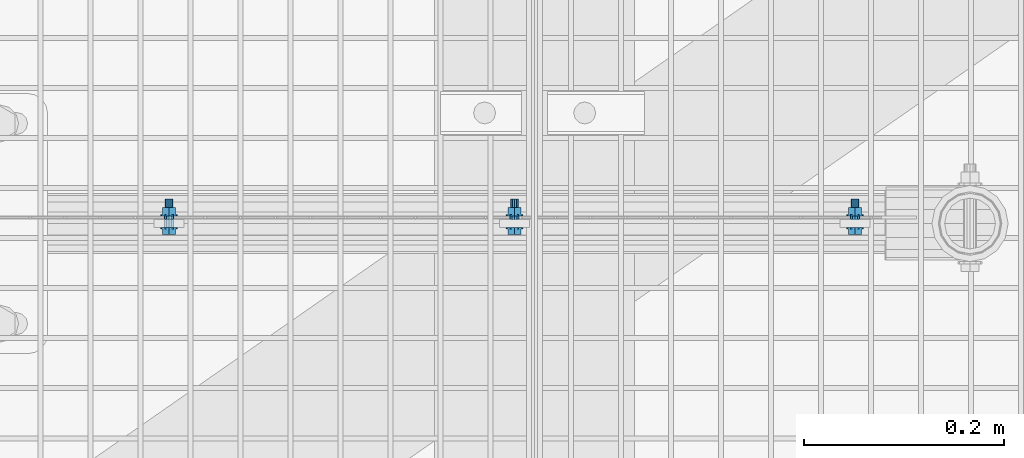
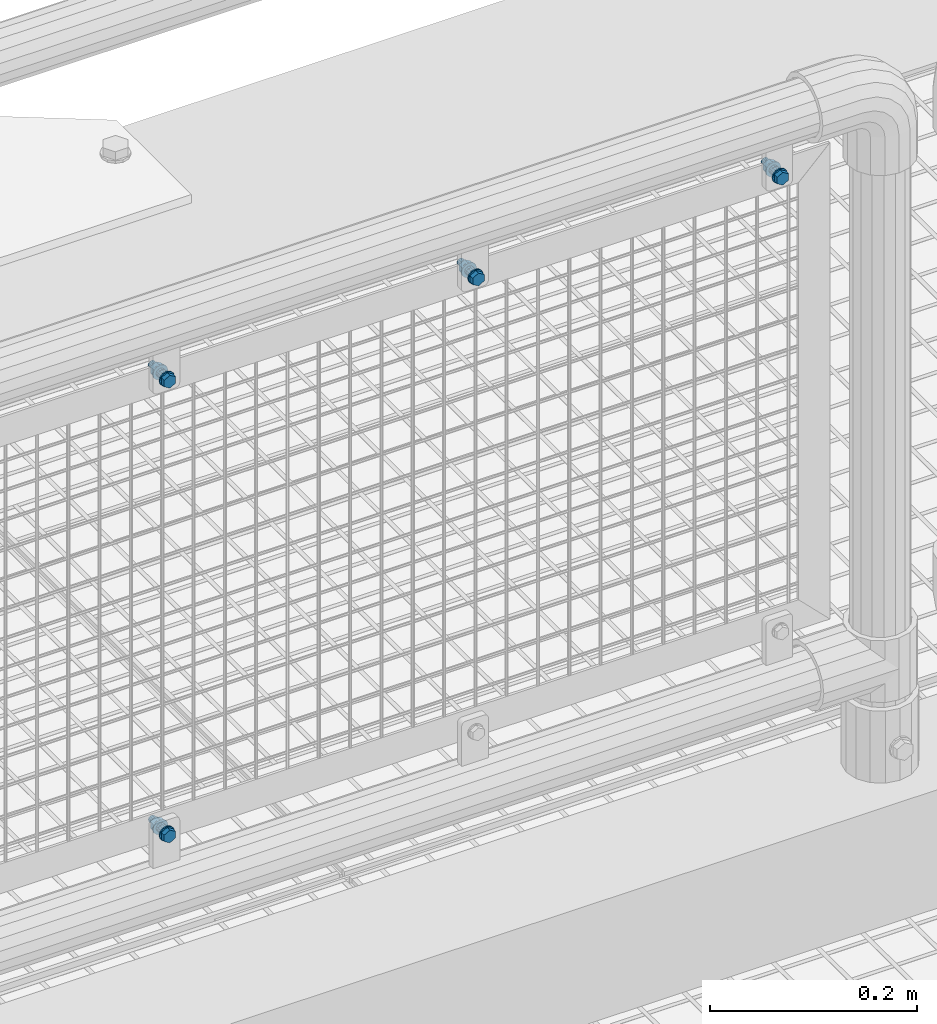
# One storey, part 100 of 1530: 4 mechanical fasteners.
"""IFC2X3 building model written with IfcOpenShell, lengths in millimetres."""

from ifc_helpers import new_model, si_unit, frame, origin_with_axes, place, context, subcontext, project, spatial, faceted_brep, source, transform, mapped, material, type_object, element, save


model = new_model("IFC2X3")

# Units and contexts
model_context = context("Model", 3, precision=1e-05, world=origin_with_axes())
body_context = subcontext(model_context, "Body", "Model", "MODEL_VIEW")
ifc_project = project(units=[si_unit("LENGTHUNIT", "METRE", prefix="MILLI"), si_unit("AREAUNIT", "SQUARE_METRE"), si_unit("VOLUMEUNIT", "CUBIC_METRE"), si_unit("MASSUNIT", "GRAM", prefix="KILO"), si_unit("TIMEUNIT", "SECOND"), si_unit("PLANEANGLEUNIT", "RADIAN"), si_unit("SOLIDANGLEUNIT", "STERADIAN"), si_unit("THERMODYNAMICTEMPERATUREUNIT", "DEGREE_CELSIUS"), si_unit("LUMINOUSINTENSITYUNIT", "LUMEN")], contexts=[model_context])

# Site, building, storey
site_placement = place(None, origin_with_axes())
site = spatial("IfcSite", under=ifc_project, at=site_placement, Name="Brattvåg", CompositionType="ELEMENT")
building_placement = place(site_placement, origin_with_axes())
building = spatial("IfcBuilding", under=site, at=building_placement, Name="Undefined", CompositionType="ELEMENT")
storey_placement = place(building_placement, origin_with_axes())
storey = spatial("IfcBuildingStorey", under=building, at=storey_placement, Name="Undefined", CompositionType="ELEMENT", Elevation=0.0)

# Mechanical fasteners
ifc_material = material(Name="8")
mechanical_fastener_type = type_object("IfcMechanicalFastenerType", Name="Bolt assembly")
shared_shape_1 = source(origin_with_axes(), body_context, "Body", "Brep", [
    faceted_brep([(7.50555349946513, -6.90000021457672, 0.0), (3.75277674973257, -6.90000021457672, 6.5), (-3.75277674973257, -6.90000021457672, 6.5), (-7.50555349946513, -6.90000021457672, 9.19165206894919e-16), (-3.75277674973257, -6.90000021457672, -6.5), (3.75277674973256, -6.90000021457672, -6.5), (3.75277674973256, -1.60000002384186, -6.5), (-3.75277674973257, -1.60000002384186, -6.5), (-7.50555349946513, -1.60000002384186, 9.19165206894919e-16), (-3.75277674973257, -1.60000002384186, 6.5), (3.75277674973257, -1.60000002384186, 6.5), (7.50555349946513, -1.60000002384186, 0.0), (4.0, -1.60000002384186, 0.0), (3.46410161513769, -1.60000002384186, 2.00000000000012), (1.99999999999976, -1.60000002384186, 3.46410161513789), (-4.14534392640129e-13, -1.60000002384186, 4.0), (-2.00000000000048, -1.60000002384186, 3.46410161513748), (-3.4641016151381, -1.60000002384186, 1.9999999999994), (-4.0, -1.60000002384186, -8.29068785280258e-13), (-3.46410161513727, -1.60000002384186, -2.00000000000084), (-1.99999999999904, -1.60000002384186, -3.46410161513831), (1.23916228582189e-12, -1.60000002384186, -4.0), (2.00000000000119, -1.60000002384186, -3.46410161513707), (3.46410161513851, -1.60000002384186, -1.99999999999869), (3.46410161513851, 28.3999999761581, -1.99999999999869), (2.00000000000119, 28.3999999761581, -3.46410161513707), (1.23916228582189e-12, 28.3999999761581, -4.0), (-1.99999999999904, 28.3999999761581, -3.46410161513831), (-3.46410161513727, 28.3999999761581, -2.00000000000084), (-4.0, 28.3999999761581, -8.29068785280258e-13), (-3.4641016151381, 28.3999999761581, 1.9999999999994), (-2.00000000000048, 28.3999999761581, 3.46410161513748), (-4.14534392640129e-13, 28.3999999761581, 4.0), (1.99999999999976, 28.3999999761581, 3.46410161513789), (3.46410161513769, 28.3999999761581, 2.00000000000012), (4.0, 28.3999999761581, 0.0), (8.5, -1.60000002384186, 0.0), (7.36121593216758, -1.60000002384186, 4.25000000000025), (4.24999999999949, -1.60000002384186, 7.36121593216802), (-8.80885584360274e-13, -1.60000002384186, 8.5), (-4.25000000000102, -1.60000002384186, 7.36121593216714), (-7.36121593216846, -1.60000002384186, 4.24999999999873), (-8.5, -1.60000002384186, -1.76177116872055e-12), (-7.3612159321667, -1.60000002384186, -4.25000000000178), (-4.24999999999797, -1.60000002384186, -7.3612159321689), (2.63321985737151e-12, -1.60000002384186, -8.5), (4.25000000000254, -1.60000002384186, -7.36121593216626), (7.36121593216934, -1.60000002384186, -4.24999999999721), (7.36121593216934, 0.0, -4.24999999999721), (4.25000000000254, 0.0, -7.36121593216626), (2.63321985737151e-12, 0.0, -8.5), (-4.24999999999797, 0.0, -7.3612159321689), (-7.3612159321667, 0.0, -4.25000000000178), (-8.5, 0.0, -1.76177116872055e-12), (-7.36121593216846, 0.0, 4.24999999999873), (-4.25000000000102, 0.0, 7.36121593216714), (-8.80885584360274e-13, 0.0, 8.5), (4.24999999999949, 0.0, 7.36121593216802), (7.36121593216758, 0.0, 4.25000000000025), (8.5, 0.0, 0.0), (8.5, 11.5015258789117, 0.0), (7.36121593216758, 11.5015258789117, 4.25000000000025), (4.24999999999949, 11.5015258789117, 7.36121593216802), (-8.80885584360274e-13, 11.5015258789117, 8.5), (-4.25000000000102, 11.5015258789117, 7.36121593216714), (-7.36121593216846, 11.5015258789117, 4.24999999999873), (-8.5, 11.5015258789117, -1.76177116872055e-12), (-7.3612159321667, 11.5015258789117, -4.25000000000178), (-4.24999999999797, 11.5015258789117, -7.3612159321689), (2.63321985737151e-12, 11.5015258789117, -8.5), (4.25000000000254, 11.5015258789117, -7.36121593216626), (7.36121593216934, 11.5015258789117, -4.24999999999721), (7.36121593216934, 13.1015259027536, -4.24999999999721), (4.25000000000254, 13.1015259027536, -7.36121593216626), (2.63321985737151e-12, 13.1015259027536, -8.5), (-4.24999999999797, 13.1015259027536, -7.3612159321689), (-7.3612159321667, 13.1015259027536, -4.25000000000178), (-8.5, 13.1015259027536, -1.76177116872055e-12), (-7.36121593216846, 13.1015259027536, 4.24999999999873), (-4.25000000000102, 13.1015259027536, 7.36121593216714), (-8.80885584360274e-13, 13.1015259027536, 8.5), (4.24999999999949, 13.1015259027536, 7.36121593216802), (7.36121593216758, 13.1015259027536, 4.25000000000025), (8.5, 13.1015259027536, 0.0), (7.50555349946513, 13.1015259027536, 0.0), (3.75277674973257, 13.1015259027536, 6.5), (-3.75277674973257, 13.1015259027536, 6.5), (-7.50555349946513, 13.1015259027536, 9.19165206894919e-16), (-3.75277674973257, 13.1015259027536, -6.5), (3.75277674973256, 13.1015259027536, -6.5), (3.75277674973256, 19.9015260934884, -6.5), (-3.75277674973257, 19.9015260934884, -6.5), (-7.50555349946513, 19.9015260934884, 9.19165206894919e-16), (-3.75277674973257, 19.9015260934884, 6.5), (3.75277674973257, 19.9015260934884, 6.5), (7.50555349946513, 19.9015260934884, 0.0)], [[[0, 1, 2, 3, 4, 5]], [[6, 7, 8, 9, 10, 11]], [[0, 11, 10, 1]], [[1, 10, 9, 2]], [[2, 9, 8, 3]], [[3, 8, 7, 4]], [[4, 7, 6, 5]], [[5, 6, 11, 0]], [[12, 13, 14, 15, 16, 17, 18, 19, 20, 21, 22, 23]], [[24, 25, 26, 27, 28, 29, 30, 31, 32, 33, 34, 35]], [[12, 35, 34, 13]], [[13, 34, 33, 14]], [[14, 33, 32, 15]], [[15, 32, 31, 16]], [[16, 31, 30, 17]], [[17, 30, 29, 18]], [[18, 29, 28, 19]], [[19, 28, 27, 20]], [[20, 27, 26, 21]], [[21, 26, 25, 22]], [[22, 25, 24, 23]], [[23, 24, 35, 12]], [[36, 37, 38, 39, 40, 41, 42, 43, 44, 45, 46, 47]], [[48, 49, 50, 51, 52, 53, 54, 55, 56, 57, 58, 59]], [[36, 59, 58, 37]], [[37, 58, 57, 38]], [[38, 57, 56, 39]], [[39, 56, 55, 40]], [[40, 55, 54, 41]], [[41, 54, 53, 42]], [[42, 53, 52, 43]], [[43, 52, 51, 44]], [[44, 51, 50, 45]], [[45, 50, 49, 46]], [[46, 49, 48, 47]], [[47, 48, 59, 36]], [[60, 61, 62, 63, 64, 65, 66, 67, 68, 69, 70, 71]], [[72, 73, 74, 75, 76, 77, 78, 79, 80, 81, 82, 83]], [[60, 83, 82, 61]], [[61, 82, 81, 62]], [[62, 81, 80, 63]], [[63, 80, 79, 64]], [[64, 79, 78, 65]], [[65, 78, 77, 66]], [[66, 77, 76, 67]], [[67, 76, 75, 68]], [[68, 75, 74, 69]], [[69, 74, 73, 70]], [[70, 73, 72, 71]], [[71, 72, 83, 60]], [[84, 85, 86, 87, 88, 89]], [[90, 91, 92, 93, 94, 95]], [[84, 95, 94, 85]], [[85, 94, 93, 86]], [[86, 93, 92, 87]], [[87, 92, 91, 88]], [[88, 91, 90, 89]], [[89, 90, 95, 84]]]),
    faceted_brep([(5.0, 0.1, 0.0), (4.33012701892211, 0.1, 2.50000000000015), (2.4999999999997, 0.1, 4.33012701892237), (-5.18167990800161e-13, 0.1, 5.0), (-2.5000000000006, 0.1, 4.33012701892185), (-4.33012701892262, 0.1, 2.49999999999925), (-5.0, 0.1, -1.03633598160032e-12), (-4.33012701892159, 0.1, -2.50000000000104), (-2.49999999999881, 0.1, -4.33012701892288), (1.54895285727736e-12, 0.1, -5.0), (2.50000000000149, 0.1, -4.33012701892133), (4.33012701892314, 0.1, -2.49999999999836), (4.33012701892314, 8.1, -2.49999999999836), (2.50000000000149, 8.1, -4.33012701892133), (1.54895285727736e-12, 8.1, -5.0), (-2.49999999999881, 8.1, -4.33012701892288), (-4.33012701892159, 8.1, -2.50000000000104), (-5.0, 8.1, -1.03633598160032e-12), (-4.33012701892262, 8.1, 2.49999999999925), (-2.5000000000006, 8.1, 4.33012701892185), (-5.18167990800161e-13, 8.1, 5.0), (2.4999999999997, 8.1, 4.33012701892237), (4.33012701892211, 8.1, 2.50000000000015), (5.0, 8.1, 0.0), (5.0, 8.40152587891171, 0.0), (4.33012701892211, 8.40152587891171, 2.50000000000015), (2.4999999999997, 8.40152587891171, 4.33012701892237), (-5.18167990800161e-13, 8.40152587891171, 5.0), (-2.5000000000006, 8.40152587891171, 4.33012701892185), (-4.33012701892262, 8.40152587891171, 2.49999999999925), (-5.0, 8.40152587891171, -1.03633598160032e-12), (-4.33012701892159, 8.40152587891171, -2.50000000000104), (-2.49999999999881, 8.40152587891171, -4.33012701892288), (1.54895285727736e-12, 8.40152587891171, -5.0), (2.50000000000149, 8.40152587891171, -4.33012701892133), (4.33012701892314, 8.40152587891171, -2.49999999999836), (4.33012701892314, 11.5015258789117, -2.49999999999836), (2.50000000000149, 11.5015258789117, -4.33012701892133), (1.54895285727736e-12, 11.5015258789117, -5.0), (-2.49999999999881, 11.5015258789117, -4.33012701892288), (-4.33012701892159, 11.5015258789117, -2.50000000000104), (-5.0, 11.5015258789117, -1.03633598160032e-12), (-4.33012701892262, 11.5015258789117, 2.49999999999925), (-2.5000000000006, 11.5015258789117, 4.33012701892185), (-5.18167990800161e-13, 11.5015258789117, 5.0), (2.4999999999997, 11.5015258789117, 4.33012701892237), (4.33012701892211, 11.5015258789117, 2.50000000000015), (5.0, 11.5015258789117, 0.0)], [[[0, 1, 2, 3, 4, 5, 6, 7, 8, 9, 10, 11]], [[12, 13, 14, 15, 16, 17, 18, 19, 20, 21, 22, 23]], [[0, 23, 22, 1]], [[1, 22, 21, 2]], [[2, 21, 20, 3]], [[3, 20, 19, 4]], [[4, 19, 18, 5]], [[5, 18, 17, 6]], [[6, 17, 16, 7]], [[7, 16, 15, 8]], [[8, 15, 14, 9]], [[9, 14, 13, 10]], [[10, 13, 12, 11]], [[11, 12, 23, 0]], [[24, 25, 26, 27, 28, 29, 30, 31, 32, 33, 34, 35]], [[36, 37, 38, 39, 40, 41, 42, 43, 44, 45, 46, 47]], [[24, 47, 46, 25]], [[25, 46, 45, 26]], [[26, 45, 44, 27]], [[27, 44, 43, 28]], [[28, 43, 42, 29]], [[29, 42, 41, 30]], [[30, 41, 40, 31]], [[31, 40, 39, 32]], [[32, 39, 38, 33]], [[33, 38, 37, 34]], [[34, 37, 36, 35]], [[35, 36, 47, 24]]]),
])
for number, where, z_axis, x_axis, name in (
    (1, (14220.8504180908, 7660.49950027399, 889.680069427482), (-1.0, 1.99999855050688e-09, 0.0), (0.0, 0.0, 1.0), "Bolt assembly"),
    (2, (14565.8516387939, 7660.49950027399, 889.680069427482), (-1.0, 1.99999855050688e-09, 0.0), (0.0, 0.0, 1.0), "Bolt assembly"),
):
    element("IfcMechanicalFastener", number, at=place(storey_placement, frame(where, z_axis=z_axis, x_axis=x_axis)), inside=storey, type_object=mechanical_fastener_type, material=ifc_material, Name=name, NominalDiameter=8.0, NominalLength=30.0, context=body_context, shape_type="MappedRepresentation", body=[
        mapped(shared_shape_1, transform((0.0, 0.0, 0.0))),
    ])
shared_shape_2 = source(origin_with_axes(), body_context, "Body", "Brep", [
    faceted_brep([(7.50555349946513, -6.90000021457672, 0.0), (3.75277674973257, -6.90000021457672, 6.5), (-3.75277674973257, -6.90000021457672, 6.5), (-7.50555349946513, -6.90000021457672, 9.19165206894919e-16), (-3.75277674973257, -6.90000021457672, -6.5), (3.75277674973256, -6.90000021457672, -6.5), (3.75277674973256, -1.60000002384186, -6.5), (-3.75277674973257, -1.60000002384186, -6.5), (-7.50555349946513, -1.60000002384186, 9.19165206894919e-16), (-3.75277674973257, -1.60000002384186, 6.5), (3.75277674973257, -1.60000002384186, 6.5), (7.50555349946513, -1.60000002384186, 0.0), (4.0, -1.60000002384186, 0.0), (3.46410161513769, -1.60000002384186, 2.00000000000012), (1.99999999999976, -1.60000002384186, 3.46410161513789), (-4.14534392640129e-13, -1.60000002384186, 4.0), (-2.00000000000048, -1.60000002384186, 3.46410161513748), (-3.4641016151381, -1.60000002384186, 1.9999999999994), (-4.0, -1.60000002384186, -8.29068785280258e-13), (-3.46410161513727, -1.60000002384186, -2.00000000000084), (-1.99999999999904, -1.60000002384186, -3.46410161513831), (1.23916228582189e-12, -1.60000002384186, -4.0), (2.00000000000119, -1.60000002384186, -3.46410161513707), (3.46410161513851, -1.60000002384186, -1.99999999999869), (3.46410161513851, 28.3999999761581, -1.99999999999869), (2.00000000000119, 28.3999999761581, -3.46410161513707), (1.23916228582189e-12, 28.3999999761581, -4.0), (-1.99999999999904, 28.3999999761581, -3.46410161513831), (-3.46410161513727, 28.3999999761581, -2.00000000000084), (-4.0, 28.3999999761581, -8.29068785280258e-13), (-3.4641016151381, 28.3999999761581, 1.9999999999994), (-2.00000000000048, 28.3999999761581, 3.46410161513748), (-4.14534392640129e-13, 28.3999999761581, 4.0), (1.99999999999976, 28.3999999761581, 3.46410161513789), (3.46410161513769, 28.3999999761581, 2.00000000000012), (4.0, 28.3999999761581, 0.0), (8.5, -1.60000002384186, 0.0), (7.36121593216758, -1.60000002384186, 4.25000000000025), (4.24999999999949, -1.60000002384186, 7.36121593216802), (-8.80885584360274e-13, -1.60000002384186, 8.5), (-4.25000000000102, -1.60000002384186, 7.36121593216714), (-7.36121593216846, -1.60000002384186, 4.24999999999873), (-8.5, -1.60000002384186, -1.76177116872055e-12), (-7.3612159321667, -1.60000002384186, -4.25000000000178), (-4.24999999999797, -1.60000002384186, -7.3612159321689), (2.63321985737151e-12, -1.60000002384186, -8.5), (4.25000000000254, -1.60000002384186, -7.36121593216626), (7.36121593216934, -1.60000002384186, -4.24999999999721), (7.36121593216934, 0.0, -4.24999999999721), (4.25000000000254, 0.0, -7.36121593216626), (2.63321985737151e-12, 0.0, -8.5), (-4.24999999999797, 0.0, -7.3612159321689), (-7.3612159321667, 0.0, -4.25000000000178), (-8.5, 0.0, -1.76177116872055e-12), (-7.36121593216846, 0.0, 4.24999999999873), (-4.25000000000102, 0.0, 7.36121593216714), (-8.80885584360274e-13, 0.0, 8.5), (4.24999999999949, 0.0, 7.36121593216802), (7.36121593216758, 0.0, 4.25000000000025), (8.5, 0.0, 0.0), (8.5, 11.5021362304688, 0.0), (7.36121593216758, 11.5021362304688, 4.25000000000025), (4.24999999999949, 11.5021362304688, 7.36121593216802), (-8.80885584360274e-13, 11.5021362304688, 8.5), (-4.25000000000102, 11.5021362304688, 7.36121593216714), (-7.36121593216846, 11.5021362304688, 4.24999999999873), (-8.5, 11.5021362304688, -1.76177116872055e-12), (-7.3612159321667, 11.5021362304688, -4.25000000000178), (-4.24999999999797, 11.5021362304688, -7.3612159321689), (2.63321985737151e-12, 11.5021362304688, -8.5), (4.25000000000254, 11.5021362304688, -7.36121593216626), (7.36121593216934, 11.5021362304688, -4.24999999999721), (7.36121593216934, 13.1021362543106, -4.24999999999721), (4.25000000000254, 13.1021362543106, -7.36121593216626), (2.63321985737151e-12, 13.1021362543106, -8.5), (-4.24999999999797, 13.1021362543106, -7.3612159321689), (-7.3612159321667, 13.1021362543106, -4.25000000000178), (-8.5, 13.1021362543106, -1.76177116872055e-12), (-7.36121593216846, 13.1021362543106, 4.24999999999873), (-4.25000000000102, 13.1021362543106, 7.36121593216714), (-8.80885584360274e-13, 13.1021362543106, 8.5), (4.24999999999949, 13.1021362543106, 7.36121593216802), (7.36121593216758, 13.1021362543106, 4.25000000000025), (8.5, 13.1021362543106, 0.0), (7.50555349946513, 13.1021362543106, 0.0), (3.75277674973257, 13.1021362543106, 6.5), (-3.75277674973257, 13.1021362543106, 6.5), (-7.50555349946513, 13.1021362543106, 9.19165206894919e-16), (-3.75277674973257, 13.1021362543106, -6.5), (3.75277674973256, 13.1021362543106, -6.5), (3.75277674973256, 19.9021364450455, -6.5), (-3.75277674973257, 19.9021364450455, -6.5), (-7.50555349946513, 19.9021364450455, 9.19165206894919e-16), (-3.75277674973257, 19.9021364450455, 6.5), (3.75277674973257, 19.9021364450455, 6.5), (7.50555349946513, 19.9021364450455, 0.0)], [[[0, 1, 2, 3, 4, 5]], [[6, 7, 8, 9, 10, 11]], [[0, 11, 10, 1]], [[1, 10, 9, 2]], [[2, 9, 8, 3]], [[3, 8, 7, 4]], [[4, 7, 6, 5]], [[5, 6, 11, 0]], [[12, 13, 14, 15, 16, 17, 18, 19, 20, 21, 22, 23]], [[24, 25, 26, 27, 28, 29, 30, 31, 32, 33, 34, 35]], [[12, 35, 34, 13]], [[13, 34, 33, 14]], [[14, 33, 32, 15]], [[15, 32, 31, 16]], [[16, 31, 30, 17]], [[17, 30, 29, 18]], [[18, 29, 28, 19]], [[19, 28, 27, 20]], [[20, 27, 26, 21]], [[21, 26, 25, 22]], [[22, 25, 24, 23]], [[23, 24, 35, 12]], [[36, 37, 38, 39, 40, 41, 42, 43, 44, 45, 46, 47]], [[48, 49, 50, 51, 52, 53, 54, 55, 56, 57, 58, 59]], [[36, 59, 58, 37]], [[37, 58, 57, 38]], [[38, 57, 56, 39]], [[39, 56, 55, 40]], [[40, 55, 54, 41]], [[41, 54, 53, 42]], [[42, 53, 52, 43]], [[43, 52, 51, 44]], [[44, 51, 50, 45]], [[45, 50, 49, 46]], [[46, 49, 48, 47]], [[47, 48, 59, 36]], [[60, 61, 62, 63, 64, 65, 66, 67, 68, 69, 70, 71]], [[72, 73, 74, 75, 76, 77, 78, 79, 80, 81, 82, 83]], [[60, 83, 82, 61]], [[61, 82, 81, 62]], [[62, 81, 80, 63]], [[63, 80, 79, 64]], [[64, 79, 78, 65]], [[65, 78, 77, 66]], [[66, 77, 76, 67]], [[67, 76, 75, 68]], [[68, 75, 74, 69]], [[69, 74, 73, 70]], [[70, 73, 72, 71]], [[71, 72, 83, 60]], [[84, 85, 86, 87, 88, 89]], [[90, 91, 92, 93, 94, 95]], [[84, 95, 94, 85]], [[85, 94, 93, 86]], [[86, 93, 92, 87]], [[87, 92, 91, 88]], [[88, 91, 90, 89]], [[89, 90, 95, 84]]]),
    faceted_brep([(5.0, 0.1, 0.0), (4.33012701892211, 0.1, 2.50000000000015), (2.4999999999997, 0.1, 4.33012701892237), (-5.18167990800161e-13, 0.1, 5.0), (-2.5000000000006, 0.1, 4.33012701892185), (-4.33012701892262, 0.1, 2.49999999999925), (-5.0, 0.1, -1.03633598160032e-12), (-4.33012701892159, 0.1, -2.50000000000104), (-2.49999999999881, 0.1, -4.33012701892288), (1.54895285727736e-12, 0.1, -5.0), (2.50000000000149, 0.1, -4.33012701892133), (4.33012701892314, 0.1, -2.49999999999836), (4.33012701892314, 8.1, -2.49999999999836), (2.50000000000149, 8.1, -4.33012701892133), (1.54895285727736e-12, 8.1, -5.0), (-2.49999999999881, 8.1, -4.33012701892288), (-4.33012701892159, 8.1, -2.50000000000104), (-5.0, 8.1, -1.03633598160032e-12), (-4.33012701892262, 8.1, 2.49999999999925), (-2.5000000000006, 8.1, 4.33012701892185), (-5.18167990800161e-13, 8.1, 5.0), (2.4999999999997, 8.1, 4.33012701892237), (4.33012701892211, 8.1, 2.50000000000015), (5.0, 8.1, 0.0), (5.0, 8.40213623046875, 0.0), (4.33012701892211, 8.40213623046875, 2.50000000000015), (2.4999999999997, 8.40213623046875, 4.33012701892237), (-5.18167990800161e-13, 8.40213623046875, 5.0), (-2.5000000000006, 8.40213623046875, 4.33012701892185), (-4.33012701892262, 8.40213623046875, 2.49999999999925), (-5.0, 8.40213623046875, -1.03633598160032e-12), (-4.33012701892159, 8.40213623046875, -2.50000000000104), (-2.49999999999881, 8.40213623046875, -4.33012701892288), (1.54895285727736e-12, 8.40213623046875, -5.0), (2.50000000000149, 8.40213623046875, -4.33012701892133), (4.33012701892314, 8.40213623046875, -2.49999999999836), (4.33012701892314, 11.5021362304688, -2.49999999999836), (2.50000000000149, 11.5021362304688, -4.33012701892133), (1.54895285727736e-12, 11.5021362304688, -5.0), (-2.49999999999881, 11.5021362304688, -4.33012701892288), (-4.33012701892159, 11.5021362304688, -2.50000000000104), (-5.0, 11.5021362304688, -1.03633598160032e-12), (-4.33012701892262, 11.5021362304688, 2.49999999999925), (-2.5000000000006, 11.5021362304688, 4.33012701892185), (-5.18167990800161e-13, 11.5021362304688, 5.0), (2.4999999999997, 11.5021362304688, 4.33012701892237), (4.33012701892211, 11.5021362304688, 2.50000000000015), (5.0, 11.5021362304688, 0.0)], [[[0, 1, 2, 3, 4, 5, 6, 7, 8, 9, 10, 11]], [[12, 13, 14, 15, 16, 17, 18, 19, 20, 21, 22, 23]], [[0, 23, 22, 1]], [[1, 22, 21, 2]], [[2, 21, 20, 3]], [[3, 20, 19, 4]], [[4, 19, 18, 5]], [[5, 18, 17, 6]], [[6, 17, 16, 7]], [[7, 16, 15, 8]], [[8, 15, 14, 9]], [[9, 14, 13, 10]], [[10, 13, 12, 11]], [[11, 12, 23, 0]], [[24, 25, 26, 27, 28, 29, 30, 31, 32, 33, 34, 35]], [[36, 37, 38, 39, 40, 41, 42, 43, 44, 45, 46, 47]], [[24, 47, 46, 25]], [[25, 46, 45, 26]], [[26, 45, 44, 27]], [[27, 44, 43, 28]], [[28, 43, 42, 29]], [[29, 42, 41, 30]], [[30, 41, 40, 31]], [[31, 40, 39, 32]], [[32, 39, 38, 33]], [[33, 38, 37, 34]], [[34, 37, 36, 35]], [[35, 36, 47, 24]]]),
])
mechanical_fastener_1_placement = place(storey_placement, frame((14906.0000915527, 7660.49888992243, 889.679782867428), z_axis=(-1.0, 1.99999855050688e-09, 0.0), x_axis=(0.0, 0.0, 1.0)))
element("IfcMechanicalFastener", 3, at=mechanical_fastener_1_placement, inside=storey, type_object=mechanical_fastener_type, material=ifc_material, Name="Bolt assembly", NominalDiameter=8.0, NominalLength=30.0, context=body_context, shape_type="MappedRepresentation", body=[
    mapped(shared_shape_2, transform((0.0, 0.0, 0.0))),
])
shared_shape_3 = source(origin_with_axes(), body_context, "Body", "Brep", [
    faceted_brep([(7.50555349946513, -6.899000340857, 0.0), (3.75277674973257, -6.899000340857, 6.5), (-3.75277674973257, -6.899000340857, 6.5), (-7.50555349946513, -6.899000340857, 9.19165206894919e-16), (-3.75277674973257, -6.899000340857, -6.5), (3.75277674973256, -6.899000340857, -6.5), (3.75277674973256, -1.59900015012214, -6.5), (-3.75277674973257, -1.59900015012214, -6.5), (-7.50555349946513, -1.59900015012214, 9.19165206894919e-16), (-3.75277674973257, -1.59900015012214, 6.5), (3.75277674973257, -1.59900015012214, 6.5), (7.50555349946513, -1.59900015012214, 0.0), (4.0, -1.59900015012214, 0.0), (3.46410161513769, -1.59900015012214, 2.00000000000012), (1.99999999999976, -1.59900015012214, 3.46410161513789), (-4.14534392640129e-13, -1.59900015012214, 4.0), (-2.00000000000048, -1.59900015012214, 3.46410161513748), (-3.4641016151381, -1.59900015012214, 1.9999999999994), (-4.0, -1.59900015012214, -8.29068785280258e-13), (-3.46410161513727, -1.59900015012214, -2.00000000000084), (-1.99999999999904, -1.59900015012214, -3.46410161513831), (1.23916228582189e-12, -1.59900015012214, -4.0), (2.00000000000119, -1.59900015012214, -3.46410161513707), (3.46410161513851, -1.59900015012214, -1.99999999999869), (3.46410161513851, 28.4009998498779, -1.99999999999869), (2.00000000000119, 28.4009998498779, -3.46410161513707), (1.23916228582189e-12, 28.4009998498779, -4.0), (-1.99999999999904, 28.4009998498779, -3.46410161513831), (-3.46410161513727, 28.4009998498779, -2.00000000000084), (-4.0, 28.4009998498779, -8.29068785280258e-13), (-3.4641016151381, 28.4009998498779, 1.9999999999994), (-2.00000000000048, 28.4009998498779, 3.46410161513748), (-4.14534392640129e-13, 28.4009998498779, 4.0), (1.99999999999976, 28.4009998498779, 3.46410161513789), (3.46410161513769, 28.4009998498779, 2.00000000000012), (4.0, 28.4009998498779, 0.0), (8.5, -1.59900015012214, 0.0), (7.36121593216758, -1.59900015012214, 4.25000000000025), (4.24999999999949, -1.59900015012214, 7.36121593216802), (-8.80885584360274e-13, -1.59900015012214, 8.5), (-4.25000000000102, -1.59900015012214, 7.36121593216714), (-7.36121593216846, -1.59900015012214, 4.24999999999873), (-8.5, -1.59900015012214, -1.76177116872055e-12), (-7.3612159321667, -1.59900015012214, -4.25000000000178), (-4.24999999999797, -1.59900015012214, -7.3612159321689), (2.63321985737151e-12, -1.59900015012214, -8.5), (4.25000000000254, -1.59900015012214, -7.36121593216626), (7.36121593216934, -1.59900015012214, -4.24999999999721), (7.36121593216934, 0.000999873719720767, -4.24999999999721), (4.25000000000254, 0.000999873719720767, -7.36121593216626), (2.63321985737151e-12, 0.000999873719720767, -8.5), (-4.24999999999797, 0.000999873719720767, -7.3612159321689), (-7.3612159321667, 0.000999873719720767, -4.25000000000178), (-8.5, 0.000999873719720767, -1.76177116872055e-12), (-7.36121593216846, 0.000999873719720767, 4.24999999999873), (-4.25000000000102, 0.000999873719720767, 7.36121593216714), (-8.80885584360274e-13, 0.000999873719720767, 8.5), (4.24999999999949, 0.000999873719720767, 7.36121593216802), (7.36121593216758, 0.000999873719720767, 4.25000000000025), (8.5, 0.000999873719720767, 0.0), (8.5, 11.5035404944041, 0.0), (7.36121593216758, 11.5035404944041, 4.25000000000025), (4.24999999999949, 11.5035404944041, 7.36121593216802), (-8.80885584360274e-13, 11.5035404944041, 8.5), (-4.25000000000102, 11.5035404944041, 7.36121593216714), (-7.36121593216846, 11.5035404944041, 4.24999999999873), (-8.5, 11.5035404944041, -1.76177116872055e-12), (-7.3612159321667, 11.5035404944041, -4.25000000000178), (-4.24999999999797, 11.5035404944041, -7.3612159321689), (2.63321985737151e-12, 11.5035404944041, -8.5), (4.25000000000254, 11.5035404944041, -7.36121593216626), (7.36121593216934, 11.5035404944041, -4.24999999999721), (7.36121593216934, 13.1035405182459, -4.24999999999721), (4.25000000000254, 13.1035405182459, -7.36121593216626), (2.63321985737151e-12, 13.1035405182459, -8.5), (-4.24999999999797, 13.1035405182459, -7.3612159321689), (-7.3612159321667, 13.1035405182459, -4.25000000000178), (-8.5, 13.1035405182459, -1.76177116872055e-12), (-7.36121593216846, 13.1035405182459, 4.24999999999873), (-4.25000000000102, 13.1035405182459, 7.36121593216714), (-8.80885584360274e-13, 13.1035405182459, 8.5), (4.24999999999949, 13.1035405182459, 7.36121593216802), (7.36121593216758, 13.1035405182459, 4.25000000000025), (8.5, 13.1035405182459, 0.0), (7.50555349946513, 13.1035405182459, 0.0), (3.75277674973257, 13.1035405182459, 6.5), (-3.75277674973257, 13.1035405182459, 6.5), (-7.50555349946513, 13.1035405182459, 9.19165206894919e-16), (-3.75277674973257, 13.1035405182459, -6.5), (3.75277674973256, 13.1035405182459, -6.5), (3.75277674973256, 19.9035407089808, -6.5), (-3.75277674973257, 19.9035407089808, -6.5), (-7.50555349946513, 19.9035407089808, 9.19165206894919e-16), (-3.75277674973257, 19.9035407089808, 6.5), (3.75277674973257, 19.9035407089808, 6.5), (7.50555349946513, 19.9035407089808, 0.0)], [[[0, 1, 2, 3, 4, 5]], [[6, 7, 8, 9, 10, 11]], [[0, 11, 10, 1]], [[1, 10, 9, 2]], [[2, 9, 8, 3]], [[3, 8, 7, 4]], [[4, 7, 6, 5]], [[5, 6, 11, 0]], [[12, 13, 14, 15, 16, 17, 18, 19, 20, 21, 22, 23]], [[24, 25, 26, 27, 28, 29, 30, 31, 32, 33, 34, 35]], [[12, 35, 34, 13]], [[13, 34, 33, 14]], [[14, 33, 32, 15]], [[15, 32, 31, 16]], [[16, 31, 30, 17]], [[17, 30, 29, 18]], [[18, 29, 28, 19]], [[19, 28, 27, 20]], [[20, 27, 26, 21]], [[21, 26, 25, 22]], [[22, 25, 24, 23]], [[23, 24, 35, 12]], [[36, 37, 38, 39, 40, 41, 42, 43, 44, 45, 46, 47]], [[48, 49, 50, 51, 52, 53, 54, 55, 56, 57, 58, 59]], [[36, 59, 58, 37]], [[37, 58, 57, 38]], [[38, 57, 56, 39]], [[39, 56, 55, 40]], [[40, 55, 54, 41]], [[41, 54, 53, 42]], [[42, 53, 52, 43]], [[43, 52, 51, 44]], [[44, 51, 50, 45]], [[45, 50, 49, 46]], [[46, 49, 48, 47]], [[47, 48, 59, 36]], [[60, 61, 62, 63, 64, 65, 66, 67, 68, 69, 70, 71]], [[72, 73, 74, 75, 76, 77, 78, 79, 80, 81, 82, 83]], [[60, 83, 82, 61]], [[61, 82, 81, 62]], [[62, 81, 80, 63]], [[63, 80, 79, 64]], [[64, 79, 78, 65]], [[65, 78, 77, 66]], [[66, 77, 76, 67]], [[67, 76, 75, 68]], [[68, 75, 74, 69]], [[69, 74, 73, 70]], [[70, 73, 72, 71]], [[71, 72, 83, 60]], [[84, 85, 86, 87, 88, 89]], [[90, 91, 92, 93, 94, 95]], [[84, 95, 94, 85]], [[85, 94, 93, 86]], [[86, 93, 92, 87]], [[87, 92, 91, 88]], [[88, 91, 90, 89]], [[89, 90, 95, 84]]]),
    faceted_brep([(5.0, 0.100999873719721, 0.0), (4.33012701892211, 0.100999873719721, 2.50000000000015), (2.4999999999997, 0.100999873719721, 4.33012701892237), (-5.18167990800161e-13, 0.100999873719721, 5.0), (-2.5000000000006, 0.100999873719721, 4.33012701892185), (-4.33012701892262, 0.100999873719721, 2.49999999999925), (-5.0, 0.100999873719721, -1.03633598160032e-12), (-4.33012701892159, 0.100999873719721, -2.50000000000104), (-2.49999999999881, 0.100999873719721, -4.33012701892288), (1.54895285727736e-12, 0.100999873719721, -5.0), (2.50000000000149, 0.100999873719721, -4.33012701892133), (4.33012701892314, 0.100999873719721, -2.49999999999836), (4.33012701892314, 8.10099988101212, -2.49999999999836), (2.50000000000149, 8.10099988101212, -4.33012701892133), (1.54895285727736e-12, 8.10099988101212, -5.0), (-2.49999999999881, 8.10099988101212, -4.33012701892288), (-4.33012701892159, 8.10099988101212, -2.50000000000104), (-5.0, 8.10099988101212, -1.03633598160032e-12), (-4.33012701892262, 8.10099988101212, 2.49999999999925), (-2.5000000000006, 8.10099988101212, 4.33012701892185), (-5.18167990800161e-13, 8.10099988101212, 5.0), (2.4999999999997, 8.10099988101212, 4.33012701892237), (4.33012701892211, 8.10099988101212, 2.50000000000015), (5.0, 8.10099988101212, 0.0), (5.0, 8.40354049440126, 0.0), (4.33012701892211, 8.40354049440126, 2.50000000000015), (2.4999999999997, 8.40354049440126, 4.33012701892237), (-5.18167990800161e-13, 8.40354049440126, 5.0), (-2.5000000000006, 8.40354049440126, 4.33012701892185), (-4.33012701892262, 8.40354049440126, 2.49999999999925), (-5.0, 8.40354049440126, -1.03633598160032e-12), (-4.33012701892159, 8.40354049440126, -2.50000000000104), (-2.49999999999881, 8.40354049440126, -4.33012701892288), (1.54895285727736e-12, 8.40354049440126, -5.0), (2.50000000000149, 8.40354049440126, -4.33012701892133), (4.33012701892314, 8.40354049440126, -2.49999999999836), (4.33012701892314, 11.5035404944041, -2.49999999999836), (2.50000000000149, 11.5035404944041, -4.33012701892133), (1.54895285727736e-12, 11.5035404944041, -5.0), (-2.49999999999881, 11.5035404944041, -4.33012701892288), (-4.33012701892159, 11.5035404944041, -2.50000000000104), (-5.0, 11.5035404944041, -1.03633598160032e-12), (-4.33012701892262, 11.5035404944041, 2.49999999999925), (-2.5000000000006, 11.5035404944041, 4.33012701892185), (-5.18167990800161e-13, 11.5035404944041, 5.0), (2.4999999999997, 11.5035404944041, 4.33012701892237), (4.33012701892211, 11.5035404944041, 2.50000000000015), (5.0, 11.5035404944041, 0.0)], [[[0, 1, 2, 3, 4, 5, 6, 7, 8, 9, 10, 11]], [[12, 13, 14, 15, 16, 17, 18, 19, 20, 21, 22, 23]], [[0, 23, 22, 1]], [[1, 22, 21, 2]], [[2, 21, 20, 3]], [[3, 20, 19, 4]], [[4, 19, 18, 5]], [[5, 18, 17, 6]], [[6, 17, 16, 7]], [[7, 16, 15, 8]], [[8, 15, 14, 9]], [[9, 14, 13, 10]], [[10, 13, 12, 11]], [[11, 12, 23, 0]], [[24, 25, 26, 27, 28, 29, 30, 31, 32, 33, 34, 35]], [[36, 37, 38, 39, 40, 41, 42, 43, 44, 45, 46, 47]], [[24, 47, 46, 25]], [[25, 46, 45, 26]], [[26, 45, 44, 27]], [[27, 44, 43, 28]], [[28, 43, 42, 29]], [[29, 42, 41, 30]], [[30, 41, 40, 31]], [[31, 40, 39, 32]], [[32, 39, 38, 33]], [[33, 38, 37, 34]], [[34, 37, 36, 35]], [[35, 36, 47, 24]]]),
])
mechanical_fastener_2_placement = place(storey_placement, frame((14220.8500747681, 7660.49843978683, 352.299672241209), z_axis=(-1.0, 1.99999855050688e-09, 0.0), x_axis=(0.0, 0.0, 1.0)))
element("IfcMechanicalFastener", 4, at=mechanical_fastener_2_placement, inside=storey, type_object=mechanical_fastener_type, material=ifc_material, Name="Bolt assembly", NominalDiameter=8.0, NominalLength=30.0, context=body_context, shape_type="MappedRepresentation", body=[
    mapped(shared_shape_3, transform((0.0, 0.0, 0.0))),
])

save(model, "model.ifc")
